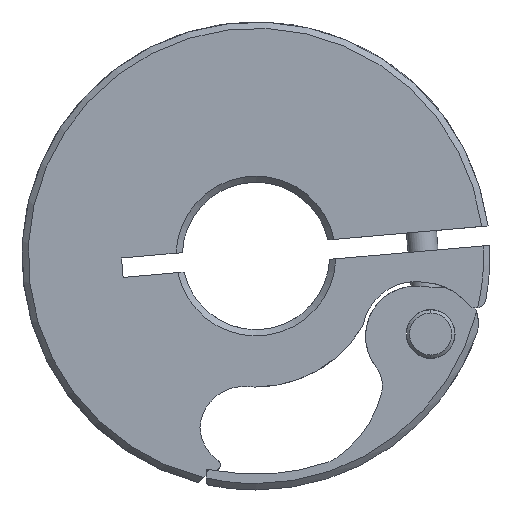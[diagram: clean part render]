
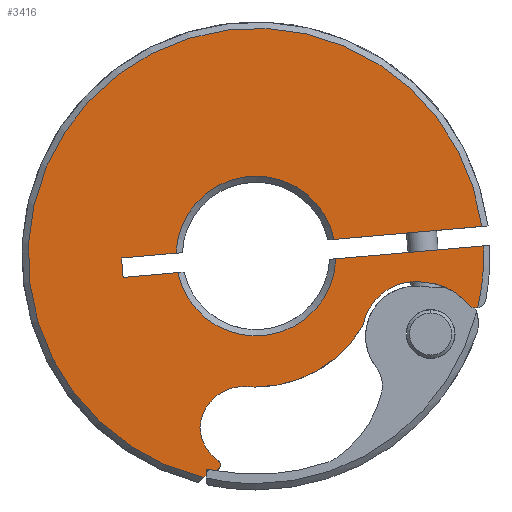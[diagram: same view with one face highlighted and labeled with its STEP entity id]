
A CAD part, front view. The second image highlights one B-rep face of the part: STEP entity #3416.
In plain terms, the highlighted planar face has unit normal (0, -1, 0).
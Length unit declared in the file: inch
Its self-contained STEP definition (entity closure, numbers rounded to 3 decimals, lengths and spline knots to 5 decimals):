
#419=CARTESIAN_POINT('',(0.25062,0.,0.0533));
#1080=CARTESIAN_POINT('',(0.,0.,0.));
#1081=DIRECTION('',(0.,1.,0.));
#1082=DIRECTION('',(-0.999,0.,0.035));
#1083=AXIS2_PLACEMENT_3D('',#1080,#1081,#1082);
#1088=DIRECTION('',(0.996,0.,0.087));
#1089=VECTOR('',#1088,0.17569);
#1090=CARTESIAN_POINT('',(-0.43109,0.,-0.00635));
#1091=LINE('',#1090,#1089);
#1095=DIRECTION('',(-0.087,0.,0.996));
#1096=VECTOR('',#1095,0.0625);
#1097=CARTESIAN_POINT('',(-0.42564,0.,-0.06861));
#1098=LINE('',#1097,#1096);
#1102=DIRECTION('',(-0.996,0.,-0.087));
#1103=VECTOR('',#1102,0.17569);
#1104=CARTESIAN_POINT('',(-0.25062,0.,-0.0533));
#1105=LINE('',#1104,#1103);
#1109=CARTESIAN_POINT('',(0.,0.,0.));
#1110=DIRECTION('',(0.,1.,0.));
#1111=DIRECTION('',(0.999,0.,-0.035));
#1112=AXIS2_PLACEMENT_3D('',#1109,#1110,#1111);
#1117=DIRECTION('',(-0.996,0.,-0.087));
#1118=VECTOR('',#1117,0.47502);
#1119=CARTESIAN_POINT('',(0.72928,0.,0.03243));
#1120=LINE('',#1119,#1118);
#1124=CARTESIAN_POINT('',(0.,0.,0.));
#1125=DIRECTION('',(0.,-1.,0.));
#1126=DIRECTION('',(0.974,0.,-0.227));
#1127=AXIS2_PLACEMENT_3D('',#1124,#1125,#1126);
#1132=CARTESIAN_POINT('',(0.70488,0.,-0.13398));
#1133=DIRECTION('',(0.,-1.,0.));
#1134=DIRECTION('',(-0.774,0.,-0.633));
#1135=AXIS2_PLACEMENT_3D('',#1132,#1133,#1134);
#1140=CARTESIAN_POINT('',(0.53177,0.,-0.27556));
#1141=DIRECTION('',(0.,1.,0.));
#1142=DIRECTION('',(0.06,0.,0.998));
#1143=AXIS2_PLACEMENT_3D('',#1140,#1141,#1142);
#1148=CARTESIAN_POINT('',(0.51221,0.,-0.25395));
#1149=DIRECTION('',(0.,1.,0.));
#1150=DIRECTION('',(-0.984,0.,0.179));
#1151=AXIS2_PLACEMENT_3D('',#1148,#1149,#1150);
#1156=CARTESIAN_POINT('',(-0.00154,0.,-0.01994));
#1157=DIRECTION('',(0.,-1.,0.));
#1158=DIRECTION('',(0.,0.,-1.));
#1159=AXIS2_PLACEMENT_3D('',#1156,#1157,#1158);
#1164=CARTESIAN_POINT('',(-0.00154,0.,-0.01994));
#1165=DIRECTION('',(0.,-1.,0.));
#1166=DIRECTION('',(-0.071,0.,-0.997));
#1167=AXIS2_PLACEMENT_3D('',#1164,#1165,#1166);
#1172=CARTESIAN_POINT('',(-0.04,0.,-0.55857));
#1173=DIRECTION('',(0.,1.,0.));
#1174=DIRECTION('',(-0.998,0.,0.06));
#1175=AXIS2_PLACEMENT_3D('',#1172,#1173,#1174);
#1180=CARTESIAN_POINT('',(-0.04,0.,-0.54178));
#1181=DIRECTION('',(0.,1.,0.));
#1182=DIRECTION('',(-0.581,0.,-0.814));
#1183=AXIS2_PLACEMENT_3D('',#1180,#1181,#1182);
#1188=CARTESIAN_POINT('',(-0.13,0.,-0.66798));
#1189=DIRECTION('',(0.,-1.,0.));
#1190=DIRECTION('',(1.,0.,0.));
#1191=AXIS2_PLACEMENT_3D('',#1188,#1189,#1190);
#1196=DIRECTION('',(0.,0.,1.));
#1197=VECTOR('',#1196,0.00446);
#1198=CARTESIAN_POINT('',(-0.115,0.,-0.67244));
#1199=LINE('',#1198,#1197);
#1203=CARTESIAN_POINT('',(-0.13,0.,-0.67244));
#1204=DIRECTION('',(0.,-1.,0.));
#1205=DIRECTION('',(0.,0.,-1.));
#1206=AXIS2_PLACEMENT_3D('',#1203,#1204,#1205);
#1211=CARTESIAN_POINT('',(-0.13,0.,-0.67244));
#1212=DIRECTION('',(0.,-1.,0.));
#1213=DIRECTION('',(-0.156,0.,-0.988));
#1214=AXIS2_PLACEMENT_3D('',#1211,#1212,#1213);
#1219=DIRECTION('',(0.988,0.,-0.156));
#1220=VECTOR('',#1219,0.028);
#1221=CARTESIAN_POINT('',(-0.16,0.,-0.68287));
#1222=LINE('',#1221,#1220);
#1226=DIRECTION('',(0.707,0.,0.707));
#1227=VECTOR('',#1226,0.01094);
#1228=CARTESIAN_POINT('',(-0.16773,0.,-0.71047));
#1229=LINE('',#1228,#1227);
#1233=CARTESIAN_POINT('',(0.,0.,0.));
#1234=DIRECTION('',(0.,-1.,0.));
#1235=DIRECTION('',(0.992,0.,0.13));
#1236=AXIS2_PLACEMENT_3D('',#1233,#1234,#1235);
#1241=DIRECTION('',(0.996,0.,0.087));
#1242=VECTOR('',#1241,0.47502);
#1243=CARTESIAN_POINT('',(0.25062,0.,0.0533));
#1244=LINE('',#1243,#1242);
#1248=CARTESIAN_POINT('',(0.,0.,0.));
#1249=DIRECTION('',(0.,1.,0.));
#1250=DIRECTION('',(0.,0.,1.));
#1251=AXIS2_PLACEMENT_3D('',#1248,#1249,#1250);
#1256=CARTESIAN_POINT('',(-0.25606,0.,0.00897));
#1332=CARTESIAN_POINT('',(0.25606,0.,-0.00897));
#1959=DIRECTION('',(0.,0.,-1.));
#1960=VECTOR('',#1959,0.01986);
#1961=CARTESIAN_POINT('',(-0.16,0.,-0.68287));
#1962=LINE('',#1961,#1960);
#2590=CARTESIAN_POINT('',(-0.16,0.,-0.70273));
#2591=VERTEX_POINT('',#2590);
#2592=CARTESIAN_POINT('',(-0.16,0.,-0.68287));
#2593=VERTEX_POINT('',#2592);
#2603=VERTEX_POINT('',#1256);
#2604=VERTEX_POINT('',#419);
#2605=CARTESIAN_POINT('',(-0.43109,0.,-0.00635));
#2606=VERTEX_POINT('',#2605);
#2607=CARTESIAN_POINT('',(-0.42564,0.,-0.06861));
#2608=VERTEX_POINT('',#2607);
#2613=VERTEX_POINT('',#1332);
#2614=CARTESIAN_POINT('',(-0.25062,0.,-0.0533));
#2615=VERTEX_POINT('',#2614);
#2626=CARTESIAN_POINT('',(0.,0.,0.25622));
#2627=VERTEX_POINT('',#2626);
#2628=CARTESIAN_POINT('',(0.72928,0.,0.03243));
#2629=VERTEX_POINT('',#2628);
#2630=CARTESIAN_POINT('',(0.7109,0.,-0.16591));
#2631=VERTEX_POINT('',#2630);
#2632=CARTESIAN_POINT('',(0.54321,0.,-0.08477));
#2633=CARTESIAN_POINT('',(0.67972,0.,-0.15455));
#2634=VERTEX_POINT('',#2632);
#2635=VERTEX_POINT('',#2633);
#2636=CARTESIAN_POINT('',(-0.00154,0.,-0.41994));
#2637=CARTESIAN_POINT('',(0.34298,0.,-0.22318));
#2638=VERTEX_POINT('',#2636);
#2639=VERTEX_POINT('',#2637);
#2640=CARTESIAN_POINT('',(-0.03001,0.,-0.41893));
#2641=VERTEX_POINT('',#2640);
#2642=CARTESIAN_POINT('',(-0.12129,0.,-0.65577));
#2643=CARTESIAN_POINT('',(-0.17975,0.,-0.55018));
#2644=VERTEX_POINT('',#2642);
#2645=VERTEX_POINT('',#2643);
#2646=CARTESIAN_POINT('',(-0.115,0.,-0.66798));
#2647=VERTEX_POINT('',#2646);
#2648=CARTESIAN_POINT('',(-0.115,0.,-0.67244));
#2649=VERTEX_POINT('',#2648);
#2650=CARTESIAN_POINT('',(-0.13,0.,-0.68744));
#2651=VERTEX_POINT('',#2650);
#2652=CARTESIAN_POINT('',(-0.13235,0.,-0.68725));
#2653=VERTEX_POINT('',#2652);
#2654=CARTESIAN_POINT('',(-0.16773,0.,-0.71047));
#2655=VERTEX_POINT('',#2654);
#2656=CARTESIAN_POINT('',(0.72383,0.,0.0947));
#2657=VERTEX_POINT('',#2656);
#3367=CARTESIAN_POINT('',(0.,0.,0.));
#3368=DIRECTION('',(0.,1.,0.));
#3369=DIRECTION('',(0.,0.,1.));
#3370=AXIS2_PLACEMENT_3D('',#3367,#3368,#3369);
#3371=PLANE('',#3370);
#3372=ORIENTED_EDGE('',*,*,#2923,.F.);
#3374=ORIENTED_EDGE('',*,*,#3373,.F.);
#3376=ORIENTED_EDGE('',*,*,#3375,.F.);
#3378=ORIENTED_EDGE('',*,*,#3377,.F.);
#3380=ORIENTED_EDGE('',*,*,#3379,.F.);
#3382=ORIENTED_EDGE('',*,*,#3381,.F.);
#3384=ORIENTED_EDGE('',*,*,#3383,.F.);
#3385=ORIENTED_EDGE('',*,*,#3113,.F.);
#3387=ORIENTED_EDGE('',*,*,#3386,.F.);
#3389=ORIENTED_EDGE('',*,*,#3388,.F.);
#3391=ORIENTED_EDGE('',*,*,#3390,.F.);
#3393=ORIENTED_EDGE('',*,*,#3392,.F.);
#3395=ORIENTED_EDGE('',*,*,#3394,.F.);
#3397=ORIENTED_EDGE('',*,*,#3396,.F.);
#3399=ORIENTED_EDGE('',*,*,#3398,.F.);
#3401=ORIENTED_EDGE('',*,*,#3400,.F.);
#3403=ORIENTED_EDGE('',*,*,#3402,.F.);
#3405=ORIENTED_EDGE('',*,*,#3404,.F.);
#3407=ORIENTED_EDGE('',*,*,#3406,.F.);
#3409=ORIENTED_EDGE('',*,*,#3408,.T.);
#3410=ORIENTED_EDGE('',*,*,#3312,.F.);
#3411=ORIENTED_EDGE('',*,*,#3359,.F.);
#3412=ORIENTED_EDGE('',*,*,#2893,.F.);
#3413=ORIENTED_EDGE('',*,*,#2925,.F.);
#3414=EDGE_LOOP('',(#3372,#3374,#3376,#3378,#3380,#3382,#3384,#3385,#3387,#3389,
#3391,#3393,#3395,#3397,#3399,#3401,#3403,#3405,#3407,#3409,#3410,#3411,#3412,
#3413));
#3415=FACE_OUTER_BOUND('',#3414,.F.);
#1084=CIRCLE('',#1083,0.25622);
#1113=CIRCLE('',#1112,0.25622);
#1128=CIRCLE('',#1127,0.73);
#1136=CIRCLE('',#1135,0.0325);
#1144=CIRCLE('',#1143,0.19114);
#1152=CIRCLE('',#1151,0.172);
#1160=CIRCLE('',#1159,0.4);
#1168=CIRCLE('',#1167,0.4);
#1176=CIRCLE('',#1175,0.14);
#1184=CIRCLE('',#1183,0.14);
#1192=CIRCLE('',#1191,0.015);
#1207=CIRCLE('',#1206,0.015);
#1215=CIRCLE('',#1214,0.015);
#1237=CIRCLE('',#1236,0.73);
#1252=CIRCLE('',#1251,0.25622);
#2893=EDGE_CURVE('',#2604,#2657,#1244,.T.);
#2923=EDGE_CURVE('',#2603,#2627,#1084,.T.);
#2925=EDGE_CURVE('',#2627,#2604,#1252,.T.);
#3113=EDGE_CURVE('',#2635,#2631,#1136,.T.);
#3312=EDGE_CURVE('',#2655,#2591,#1229,.T.);
#3359=EDGE_CURVE('',#2657,#2655,#1237,.T.);
#3373=EDGE_CURVE('',#2606,#2603,#1091,.T.);
#3375=EDGE_CURVE('',#2608,#2606,#1098,.T.);
#3377=EDGE_CURVE('',#2615,#2608,#1105,.T.);
#3379=EDGE_CURVE('',#2613,#2615,#1113,.T.);
#3381=EDGE_CURVE('',#2629,#2613,#1120,.T.);
#3383=EDGE_CURVE('',#2631,#2629,#1128,.T.);
#3386=EDGE_CURVE('',#2634,#2635,#1144,.T.);
#3388=EDGE_CURVE('',#2639,#2634,#1152,.T.);
#3390=EDGE_CURVE('',#2638,#2639,#1160,.T.);
#3392=EDGE_CURVE('',#2641,#2638,#1168,.T.);
#3394=EDGE_CURVE('',#2645,#2641,#1176,.T.);
#3396=EDGE_CURVE('',#2644,#2645,#1184,.T.);
#3398=EDGE_CURVE('',#2647,#2644,#1192,.T.);
#3400=EDGE_CURVE('',#2649,#2647,#1199,.T.);
#3402=EDGE_CURVE('',#2651,#2649,#1207,.T.);
#3404=EDGE_CURVE('',#2653,#2651,#1215,.T.);
#3406=EDGE_CURVE('',#2593,#2653,#1222,.T.);
#3408=EDGE_CURVE('',#2593,#2591,#1962,.T.);
#3416=ADVANCED_FACE('',(#3415),#3371,.F.);
